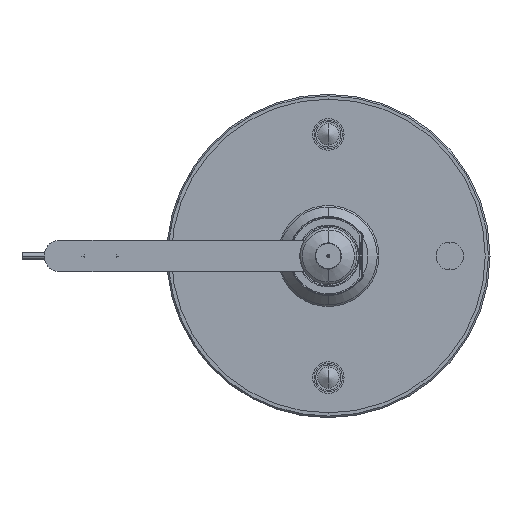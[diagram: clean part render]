
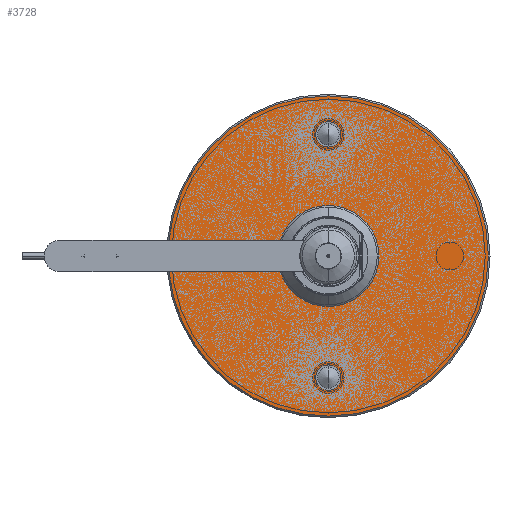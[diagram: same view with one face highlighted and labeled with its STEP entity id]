
A CAD part, front view. The second image highlights one B-rep face of the part: STEP entity #3728.
In plain terms, the highlighted planar face has unit normal (0, -1, 0).
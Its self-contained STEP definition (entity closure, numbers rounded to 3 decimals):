
#214 = AXIS2_PLACEMENT_3D ( 'NONE', #8376, #676, #21805 ) ;
#242 = VERTEX_POINT ( 'NONE', #22166 ) ;
#519 = DIRECTION ( 'NONE',  ( 0., 0., 1. ) ) ;
#641 = CARTESIAN_POINT ( 'NONE',  ( 0., 38.122, 38.5 ) ) ;
#676 = DIRECTION ( 'NONE',  ( 0., -1., 0. ) ) ;
#744 = ORIENTED_EDGE ( 'NONE', *, *, #22743, .F. ) ;
#1062 = CIRCLE ( 'NONE', #18430, 4. ) ;
#1334 = PLANE ( 'NONE',  #19213 ) ;
#1499 = DIRECTION ( 'NONE',  ( 0., -1., 0. ) ) ;
#2366 = CIRCLE ( 'NONE', #22959, 16. ) ;
#2388 = CARTESIAN_POINT ( 'NONE',  ( -15.199, 38.122, 5. ) ) ;
#2401 = CARTESIAN_POINT ( 'NONE',  ( -15.199, 38.122, -5. ) ) ;
#2658 = DIRECTION ( 'NONE',  ( 0., -1., 0. ) ) ;
#2695 = DIRECTION ( 'NONE',  ( 0., 0., -1. ) ) ;
#2801 = CARTESIAN_POINT ( 'NONE',  ( 0., 38.122, -38.5 ) ) ;
#3110 = ORIENTED_EDGE ( 'NONE', *, *, #4235, .T. ) ;
#3174 = CARTESIAN_POINT ( 'NONE',  ( 0., 38.122, -42.5 ) ) ;
#3728 = ADVANCED_FACE ( 'NONE', ( #21066, #11322, #9427 ), #1334, .F. ) ;
#4001 = EDGE_CURVE ( 'NONE', #6647, #12100, #21558, .T. ) ;
#4171 = EDGE_CURVE ( 'NONE', #242, #24764, #21653, .T. ) ;
#4212 = DIRECTION ( 'NONE',  ( 1., 0., 0. ) ) ;
#4235 = EDGE_CURVE ( 'NONE', #7915, #4754, #19617, .T. ) ;
#4569 = DIRECTION ( 'NONE',  ( 1., 0., 0. ) ) ;
#4754 = VERTEX_POINT ( 'NONE', #24503 ) ;
#5272 = AXIS2_PLACEMENT_3D ( 'NONE', #641, #2658, #519 ) ;
#5754 = AXIS2_PLACEMENT_3D ( 'NONE', #13901, #23519, #14025 ) ;
#5976 = EDGE_CURVE ( 'NONE', #15401, #10922, #1062, .T. ) ;
#5987 = CIRCLE ( 'NONE', #12042, 50.7 ) ;
#6123 = DIRECTION ( 'NONE',  ( 0., 0., -1. ) ) ;
#6155 = CARTESIAN_POINT ( 'NONE',  ( 0., 38.122, 50.7 ) ) ;
#6519 = CIRCLE ( 'NONE', #16630, 4. ) ;
#6647 = VERTEX_POINT ( 'NONE', #7448 ) ;
#6720 = DIRECTION ( 'NONE',  ( 0., -1., 0. ) ) ;
#7043 = EDGE_CURVE ( 'NONE', #24764, #12100, #22856, .T. ) ;
#7414 = ORIENTED_EDGE ( 'NONE', *, *, #7043, .F. ) ;
#7448 = CARTESIAN_POINT ( 'NONE',  ( -50.453, 38.122, 5. ) ) ;
#7915 = VERTEX_POINT ( 'NONE', #23384 ) ;
#7923 = CARTESIAN_POINT ( 'NONE',  ( 0., 38.122, 16. ) ) ;
#8173 = VERTEX_POINT ( 'NONE', #21960 ) ;
#8264 = EDGE_LOOP ( 'NONE', ( #3110, #12991, #11444, #10856, #7414, #13573, #22504, #23645 ) ) ;
#8376 = CARTESIAN_POINT ( 'NONE',  ( 0., 38.122, 0. ) ) ;
#8498 = EDGE_CURVE ( 'NONE', #14229, #242, #2366, .T. ) ;
#8612 = LINE ( 'NONE', #20012, #17076 ) ;
#8618 = EDGE_CURVE ( 'NONE', #4754, #23089, #5987, .T. ) ;
#9427 = FACE_OUTER_BOUND ( 'NONE', #8264, .T. ) ;
#9567 = DIRECTION ( 'NONE',  ( 0., -1., 0. ) ) ;
#9688 = DIRECTION ( 'NONE',  ( 0., -1., 0. ) ) ;
#10856 = ORIENTED_EDGE ( 'NONE', *, *, #4001, .T. ) ;
#10922 = VERTEX_POINT ( 'NONE', #16309 ) ;
#11322 = FACE_BOUND ( 'NONE', #23351, .T. ) ;
#11444 = ORIENTED_EDGE ( 'NONE', *, *, #20702, .T. ) ;
#12042 = AXIS2_PLACEMENT_3D ( 'NONE', #15145, #1499, #20971 ) ;
#12100 = VERTEX_POINT ( 'NONE', #2388 ) ;
#12220 = CIRCLE ( 'NONE', #5754, 4. ) ;
#12981 = CARTESIAN_POINT ( 'NONE',  ( 0., 38.122, 0. ) ) ;
#12991 = ORIENTED_EDGE ( 'NONE', *, *, #8618, .T. ) ;
#13573 = ORIENTED_EDGE ( 'NONE', *, *, #4171, .F. ) ;
#13764 = DIRECTION ( 'NONE',  ( 0., 0., -1. ) ) ;
#13901 = CARTESIAN_POINT ( 'NONE',  ( 0., 38.122, -38.5 ) ) ;
#13932 = CARTESIAN_POINT ( 'NONE',  ( 0., 38.122, 34.5 ) ) ;
#14025 = DIRECTION ( 'NONE',  ( 0., 0., 1. ) ) ;
#14229 = VERTEX_POINT ( 'NONE', #2401 ) ;
#14576 = CARTESIAN_POINT ( 'NONE',  ( 0., 38.122, 0. ) ) ;
#14860 = DIRECTION ( 'NONE',  ( 0., 1., 0. ) ) ;
#15145 = CARTESIAN_POINT ( 'NONE',  ( 0., 38.122, 0. ) ) ;
#15401 = VERTEX_POINT ( 'NONE', #13932 ) ;
#15514 = DIRECTION ( 'NONE',  ( 0., -1., 0. ) ) ;
#15571 = VECTOR ( 'NONE', #4212, 1000. ) ;
#15821 = ORIENTED_EDGE ( 'NONE', *, *, #21298, .F. ) ;
#16163 = CIRCLE ( 'NONE', #5272, 4. ) ;
#16309 = CARTESIAN_POINT ( 'NONE',  ( 0., 38.122, 42.5 ) ) ;
#16387 = AXIS2_PLACEMENT_3D ( 'NONE', #14576, #23922, #2695 ) ;
#16630 = AXIS2_PLACEMENT_3D ( 'NONE', #2801, #6720, #23907 ) ;
#16779 = ORIENTED_EDGE ( 'NONE', *, *, #5976, .F. ) ;
#16913 = EDGE_CURVE ( 'NONE', #10922, #15401, #16163, .T. ) ;
#17076 = VECTOR ( 'NONE', #4569, 1000. ) ;
#17152 = CARTESIAN_POINT ( 'NONE',  ( 0., 38.122, 0. ) ) ;
#17199 = AXIS2_PLACEMENT_3D ( 'NONE', #17152, #9688, #6123 ) ;
#17671 = CARTESIAN_POINT ( 'NONE',  ( 0., 38.122, 38.5 ) ) ;
#18430 = AXIS2_PLACEMENT_3D ( 'NONE', #17671, #15514, #23241 ) ;
#19213 = AXIS2_PLACEMENT_3D ( 'NONE', #24714, #14860, #24836 ) ;
#19587 = DIRECTION ( 'NONE',  ( 0., -1., 0. ) ) ;
#19617 = CIRCLE ( 'NONE', #214, 50.7 ) ;
#19651 = CARTESIAN_POINT ( 'NONE',  ( -50.7, 38.122, 5. ) ) ;
#19836 = AXIS2_PLACEMENT_3D ( 'NONE', #12981, #9567, #22973 ) ;
#20012 = CARTESIAN_POINT ( 'NONE',  ( -50.7, 38.122, -5. ) ) ;
#20691 = ORIENTED_EDGE ( 'NONE', *, *, #16913, .F. ) ;
#20702 = EDGE_CURVE ( 'NONE', #23089, #6647, #22687, .T. ) ;
#20971 = DIRECTION ( 'NONE',  ( 0., 0., -1. ) ) ;
#21066 = FACE_BOUND ( 'NONE', #22998, .T. ) ;
#21298 = EDGE_CURVE ( 'NONE', #8173, #22296, #6519, .T. ) ;
#21558 = LINE ( 'NONE', #19651, #15571 ) ;
#21653 = CIRCLE ( 'NONE', #16387, 16. ) ;
#21741 = CARTESIAN_POINT ( 'NONE',  ( 0., 38.122, 0. ) ) ;
#21805 = DIRECTION ( 'NONE',  ( 0., 0., -1. ) ) ;
#21960 = CARTESIAN_POINT ( 'NONE',  ( 0., 38.122, -34.5 ) ) ;
#22115 = EDGE_CURVE ( 'NONE', #7915, #14229, #8612, .T. ) ;
#22166 = CARTESIAN_POINT ( 'NONE',  ( 0., 38.122, -16. ) ) ;
#22296 = VERTEX_POINT ( 'NONE', #3174 ) ;
#22504 = ORIENTED_EDGE ( 'NONE', *, *, #8498, .F. ) ;
#22687 = CIRCLE ( 'NONE', #19836, 50.7 ) ;
#22743 = EDGE_CURVE ( 'NONE', #22296, #8173, #12220, .T. ) ;
#22856 = CIRCLE ( 'NONE', #17199, 16. ) ;
#22959 = AXIS2_PLACEMENT_3D ( 'NONE', #21741, #19587, #13764 ) ;
#22973 = DIRECTION ( 'NONE',  ( 0., 0., -1. ) ) ;
#22998 = EDGE_LOOP ( 'NONE', ( #16779, #20691 ) ) ;
#23089 = VERTEX_POINT ( 'NONE', #6155 ) ;
#23241 = DIRECTION ( 'NONE',  ( 0., 0., 1. ) ) ;
#23351 = EDGE_LOOP ( 'NONE', ( #15821, #744 ) ) ;
#23384 = CARTESIAN_POINT ( 'NONE',  ( -50.453, 38.122, -5. ) ) ;
#23519 = DIRECTION ( 'NONE',  ( 0., -1., 0. ) ) ;
#23645 = ORIENTED_EDGE ( 'NONE', *, *, #22115, .F. ) ;
#23907 = DIRECTION ( 'NONE',  ( 0., 0., 1. ) ) ;
#23922 = DIRECTION ( 'NONE',  ( 0., -1., 0. ) ) ;
#24503 = CARTESIAN_POINT ( 'NONE',  ( 0., 38.122, -50.7 ) ) ;
#24714 = CARTESIAN_POINT ( 'NONE',  ( -50.7, 38.122, 0. ) ) ;
#24764 = VERTEX_POINT ( 'NONE', #7923 ) ;
#24836 = DIRECTION ( 'NONE',  ( 0., 0., 1. ) ) ;
